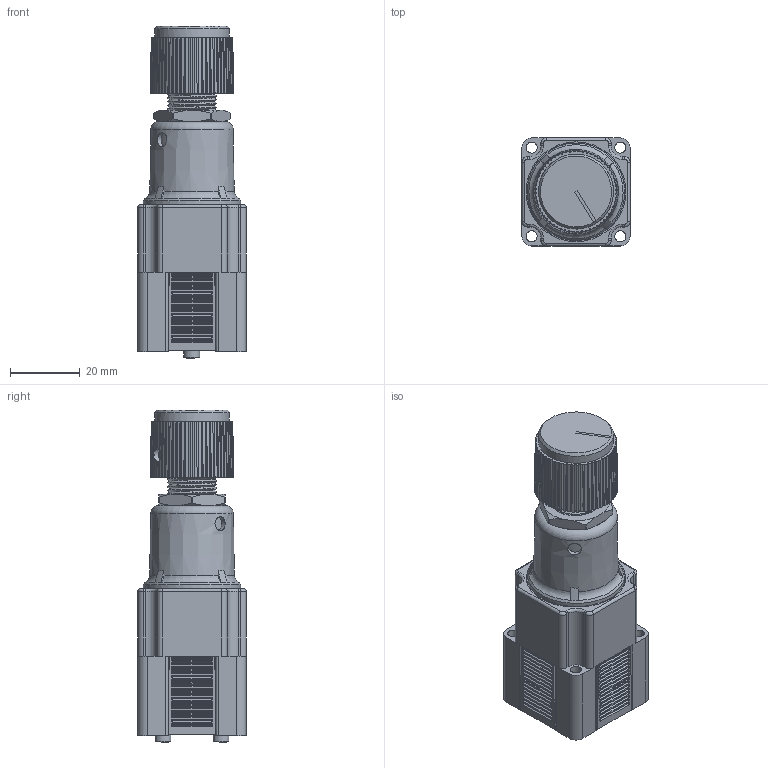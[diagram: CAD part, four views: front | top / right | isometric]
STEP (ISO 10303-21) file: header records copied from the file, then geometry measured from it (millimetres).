
FILE_DESCRIPTION(/* description */ (''),/* implementation_level */ '2;1');
FILE_NAME(/* name */ 'K:\Normteile INVENTOR\Air-Logic\Regulators\R6000\R 6___ B Blank Dovetail.igs.ipt.stp',/* time_stamp */ '2020-05-27T10:57:56+02:00',/* author */ ('Paul'),/* organization */ (''),/* preprocessor_version */ 'ST-DEVELOPER v18',/* originating_system */ 'Autodesk Inventor 2020',/* authorisation */ '');
FILE_SCHEMA (('AUTOMOTIVE_DESIGN { 1 0 10303 214 3 1 1 }'));
Length unit declared in the file: inch
Products named in the file (1): R 6___ B Blank Dovetail.igs
Bounding box: 31.19 x 31.19 x 95.02 mm (x, y, z)
Volume: 56231.2 mm3; surface area: 16749.5 mm2
Topology: 1 solids, 1 shells, 1006 faces, 2579 edges, 1655 vertices
Faces by surface type: plane 498, cylinder 374, cone 82, torus 29, bspline 23
Full cylindrical faces by diameter (mm): 1.194 x1, 2.032 x1, 3.124 x2, 3.175 x8, 3.988 x1, 4.064 x1, 4.521 x2, 8.382 x2, 19.406 x1, 21.476 x1, 27.94 x1, 28.575 x1
Entity records: 36726 total; most frequent: CARTESIAN_POINT 10568, DIRECTION 5558, ORIENTED_EDGE 5158, EDGE_CURVE 2579, AXIS2_PLACEMENT_3D 2183, VERTEX_POINT 1655, LINE 1192, VECTOR 1192
